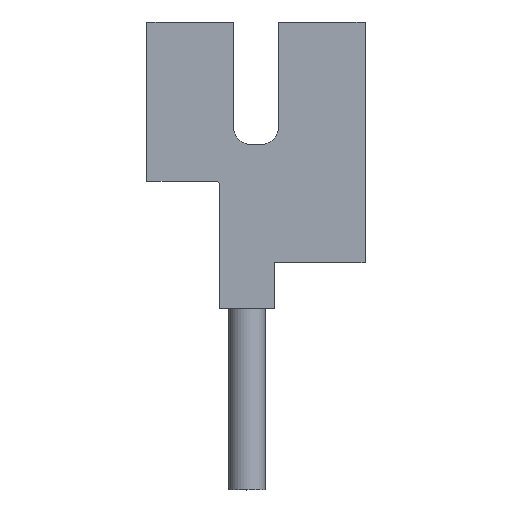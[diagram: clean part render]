
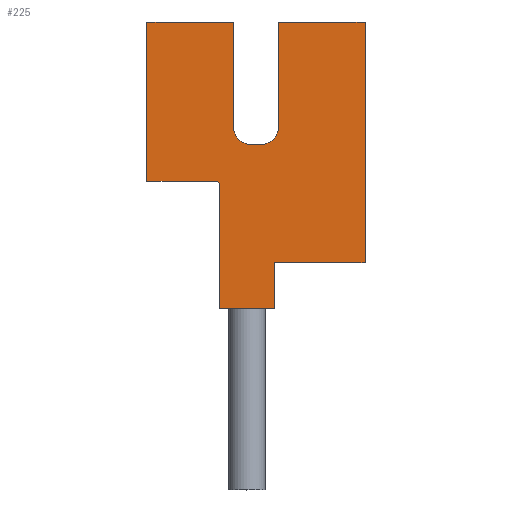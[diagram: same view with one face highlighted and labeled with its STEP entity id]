
A CAD part, top view. The second image highlights one B-rep face of the part: STEP entity #225.
In plain terms, the highlighted planar face has unit normal (0, 0, 1).
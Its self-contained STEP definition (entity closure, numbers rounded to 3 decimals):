
#24 = VERTEX_POINT('',#25);
#25 = CARTESIAN_POINT('',(0.,0.,6.));
#31 = EDGE_CURVE('',#24,#32,#34,.T.);
#32 = VERTEX_POINT('',#33);
#33 = CARTESIAN_POINT('',(0.,13.5,6.));
#34 = LINE('',#35,#36);
#35 = CARTESIAN_POINT('',(0.,0.,6.));
#36 = VECTOR('',#37,1.);
#37 = DIRECTION('',(0.,1.,0.));
#75 = VERTEX_POINT('',#76);
#76 = CARTESIAN_POINT('',(6.,0.,6.));
#82 = EDGE_CURVE('',#75,#24,#83,.T.);
#83 = LINE('',#84,#85);
#84 = CARTESIAN_POINT('',(6.,0.,6.));
#85 = VECTOR('',#86,1.);
#86 = DIRECTION('',(-1.,0.,0.));
#225 = ADVANCED_FACE('',(#226),#335,.T.);
#226 = FACE_BOUND('',#227,.F.);
#227 = EDGE_LOOP('',(#228,#229,#238,#246,#254,#262,#270,#279,#287,#296,
    #304,#312,#320,#328,#334));
#228 = ORIENTED_EDGE('',*,*,#31,.T.);
#229 = ORIENTED_EDGE('',*,*,#230,.T.);
#230 = EDGE_CURVE('',#32,#231,#233,.T.);
#231 = VERTEX_POINT('',#232);
#232 = CARTESIAN_POINT('',(-0.5,14.,6.));
#233 = CIRCLE('',#234,0.5);
#234 = AXIS2_PLACEMENT_3D('',#235,#236,#237);
#235 = CARTESIAN_POINT('',(-0.5,13.5,6.));
#236 = DIRECTION('',(0.,0.,1.));
#237 = DIRECTION('',(1.,0.,0.));
#238 = ORIENTED_EDGE('',*,*,#239,.T.);
#239 = EDGE_CURVE('',#231,#240,#242,.T.);
#240 = VERTEX_POINT('',#241);
#241 = CARTESIAN_POINT('',(-8.,14.,6.));
#242 = LINE('',#243,#244);
#243 = CARTESIAN_POINT('',(-0.5,14.,6.));
#244 = VECTOR('',#245,1.);
#245 = DIRECTION('',(-1.,0.,0.));
#246 = ORIENTED_EDGE('',*,*,#247,.T.);
#247 = EDGE_CURVE('',#240,#248,#250,.T.);
#248 = VERTEX_POINT('',#249);
#249 = CARTESIAN_POINT('',(-8.,31.5,6.));
#250 = LINE('',#251,#252);
#251 = CARTESIAN_POINT('',(-8.,14.,6.));
#252 = VECTOR('',#253,1.);
#253 = DIRECTION('',(0.,1.,0.));
#254 = ORIENTED_EDGE('',*,*,#255,.T.);
#255 = EDGE_CURVE('',#248,#256,#258,.T.);
#256 = VERTEX_POINT('',#257);
#257 = CARTESIAN_POINT('',(1.5,31.5,6.));
#258 = LINE('',#259,#260);
#259 = CARTESIAN_POINT('',(-8.,31.5,6.));
#260 = VECTOR('',#261,1.);
#261 = DIRECTION('',(1.,0.,0.));
#262 = ORIENTED_EDGE('',*,*,#263,.T.);
#263 = EDGE_CURVE('',#256,#264,#266,.T.);
#264 = VERTEX_POINT('',#265);
#265 = CARTESIAN_POINT('',(1.5,20.,6.));
#266 = LINE('',#267,#268);
#267 = CARTESIAN_POINT('',(1.5,31.5,6.));
#268 = VECTOR('',#269,1.);
#269 = DIRECTION('',(0.,-1.,0.));
#270 = ORIENTED_EDGE('',*,*,#271,.T.);
#271 = EDGE_CURVE('',#264,#272,#274,.T.);
#272 = VERTEX_POINT('',#273);
#273 = CARTESIAN_POINT('',(3.5,18.,6.));
#274 = CIRCLE('',#275,2.);
#275 = AXIS2_PLACEMENT_3D('',#276,#277,#278);
#276 = CARTESIAN_POINT('',(3.5,20.,6.));
#277 = DIRECTION('',(0.,0.,1.));
#278 = DIRECTION('',(1.,0.,0.));
#279 = ORIENTED_EDGE('',*,*,#280,.T.);
#280 = EDGE_CURVE('',#272,#281,#283,.T.);
#281 = VERTEX_POINT('',#282);
#282 = CARTESIAN_POINT('',(4.5,18.,6.));
#283 = LINE('',#284,#285);
#284 = CARTESIAN_POINT('',(3.5,18.,6.));
#285 = VECTOR('',#286,1.);
#286 = DIRECTION('',(1.,0.,0.));
#287 = ORIENTED_EDGE('',*,*,#288,.T.);
#288 = EDGE_CURVE('',#281,#289,#291,.T.);
#289 = VERTEX_POINT('',#290);
#290 = CARTESIAN_POINT('',(6.5,20.,6.));
#291 = CIRCLE('',#292,2.);
#292 = AXIS2_PLACEMENT_3D('',#293,#294,#295);
#293 = CARTESIAN_POINT('',(4.5,20.,6.));
#294 = DIRECTION('',(0.,0.,1.));
#295 = DIRECTION('',(1.,0.,0.));
#296 = ORIENTED_EDGE('',*,*,#297,.T.);
#297 = EDGE_CURVE('',#289,#298,#300,.T.);
#298 = VERTEX_POINT('',#299);
#299 = CARTESIAN_POINT('',(6.5,31.5,6.));
#300 = LINE('',#301,#302);
#301 = CARTESIAN_POINT('',(6.5,20.,6.));
#302 = VECTOR('',#303,1.);
#303 = DIRECTION('',(0.,1.,0.));
#304 = ORIENTED_EDGE('',*,*,#305,.T.);
#305 = EDGE_CURVE('',#298,#306,#308,.T.);
#306 = VERTEX_POINT('',#307);
#307 = CARTESIAN_POINT('',(16.,31.5,6.));
#308 = LINE('',#309,#310);
#309 = CARTESIAN_POINT('',(6.5,31.5,6.));
#310 = VECTOR('',#311,1.);
#311 = DIRECTION('',(1.,0.,0.));
#312 = ORIENTED_EDGE('',*,*,#313,.T.);
#313 = EDGE_CURVE('',#306,#314,#316,.T.);
#314 = VERTEX_POINT('',#315);
#315 = CARTESIAN_POINT('',(16.,5.,6.));
#316 = LINE('',#317,#318);
#317 = CARTESIAN_POINT('',(16.,31.5,6.));
#318 = VECTOR('',#319,1.);
#319 = DIRECTION('',(0.,-1.,0.));
#320 = ORIENTED_EDGE('',*,*,#321,.T.);
#321 = EDGE_CURVE('',#314,#322,#324,.T.);
#322 = VERTEX_POINT('',#323);
#323 = CARTESIAN_POINT('',(6.,5.,6.));
#324 = LINE('',#325,#326);
#325 = CARTESIAN_POINT('',(16.,5.,6.));
#326 = VECTOR('',#327,1.);
#327 = DIRECTION('',(-1.,0.,0.));
#328 = ORIENTED_EDGE('',*,*,#329,.T.);
#329 = EDGE_CURVE('',#322,#75,#330,.T.);
#330 = LINE('',#331,#332);
#331 = CARTESIAN_POINT('',(6.,5.,6.));
#332 = VECTOR('',#333,1.);
#333 = DIRECTION('',(0.,-1.,0.));
#334 = ORIENTED_EDGE('',*,*,#82,.T.);
#335 = PLANE('',#336);
#336 = AXIS2_PLACEMENT_3D('',#337,#338,#339);
#337 = CARTESIAN_POINT('',(4.462,18.21,6.));
#338 = DIRECTION('',(0.,0.,1.));
#339 = DIRECTION('',(1.,0.,0.));
